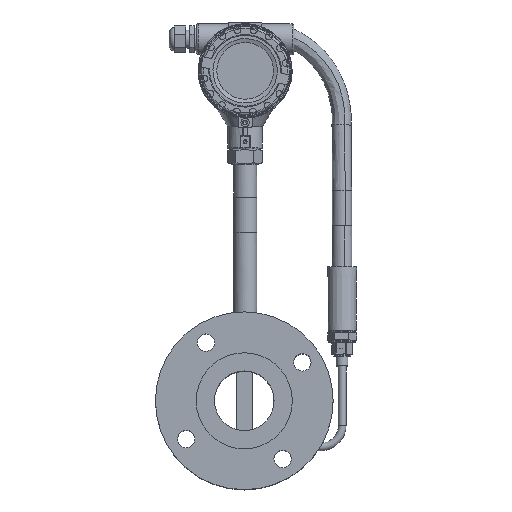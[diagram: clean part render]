
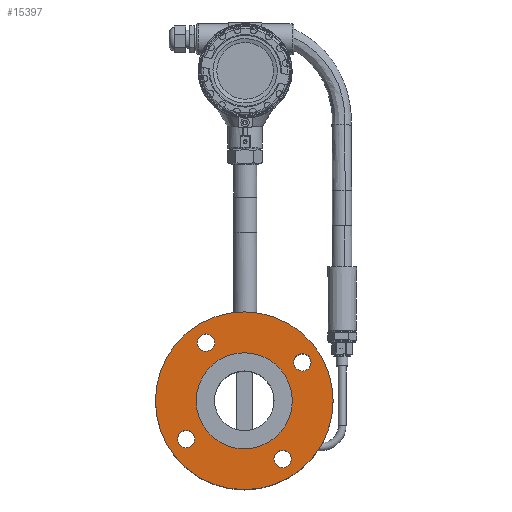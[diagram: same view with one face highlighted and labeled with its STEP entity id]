
A CAD part, top view. The second image highlights one B-rep face of the part: STEP entity #15397.
In plain terms, the highlighted planar face has unit normal (0, 0, 1).
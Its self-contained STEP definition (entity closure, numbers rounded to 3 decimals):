
#608=FACE_BOUND('',#5515,.T.);
#609=FACE_BOUND('',#5516,.T.);
#610=FACE_BOUND('',#5517,.T.);
#611=FACE_BOUND('',#5518,.T.);
#612=FACE_BOUND('',#5519,.T.);
#1120=PLANE('',#17150);
#4525=FACE_OUTER_BOUND('',#5514,.T.);
#5514=EDGE_LOOP('',(#13990));
#5515=EDGE_LOOP('',(#13991));
#5516=EDGE_LOOP('',(#13992));
#5517=EDGE_LOOP('',(#13993));
#5518=EDGE_LOOP('',(#13994));
#5519=EDGE_LOOP('',(#13995));
#6274=CIRCLE('',#17124,9.);
#6276=CIRCLE('',#17127,9.);
#6278=CIRCLE('',#17130,9.);
#6280=CIRCLE('',#17133,9.);
#6286=CIRCLE('',#17142,50.);
#6288=CIRCLE('',#17147,92.5);
#7614=VERTEX_POINT('',#30056);
#7616=VERTEX_POINT('',#30062);
#7618=VERTEX_POINT('',#30068);
#7620=VERTEX_POINT('',#30074);
#7626=VERTEX_POINT('',#30091);
#7628=VERTEX_POINT('',#30100);
#9756=EDGE_CURVE('',#7614,#7614,#6274,.T.);
#9759=EDGE_CURVE('',#7616,#7616,#6276,.T.);
#9762=EDGE_CURVE('',#7618,#7618,#6278,.T.);
#9765=EDGE_CURVE('',#7620,#7620,#6280,.T.);
#9774=EDGE_CURVE('',#7626,#7626,#6286,.T.);
#9777=EDGE_CURVE('',#7628,#7628,#6288,.T.);
#13990=ORIENTED_EDGE('',*,*,#9777,.T.);
#13991=ORIENTED_EDGE('',*,*,#9756,.T.);
#13992=ORIENTED_EDGE('',*,*,#9759,.T.);
#13993=ORIENTED_EDGE('',*,*,#9762,.T.);
#13994=ORIENTED_EDGE('',*,*,#9765,.T.);
#13995=ORIENTED_EDGE('',*,*,#9774,.T.);
#15397=ADVANCED_FACE('',(#4525,#608,#609,#610,#611,#612),#1120,.F.);
#17124=AXIS2_PLACEMENT_3D('',#30057,#21538,#21539);
#17127=AXIS2_PLACEMENT_3D('',#30063,#21545,#21546);
#17130=AXIS2_PLACEMENT_3D('',#30069,#21552,#21553);
#17133=AXIS2_PLACEMENT_3D('',#30075,#21559,#21560);
#17142=AXIS2_PLACEMENT_3D('',#30093,#21580,#21581);
#17147=AXIS2_PLACEMENT_3D('',#30101,#21591,#21592);
#17150=AXIS2_PLACEMENT_3D('',#30106,#21598,#21599);
#21538=DIRECTION('center_axis',(0.,0.,
-1.));
#21539=DIRECTION('ref_axis',(1.,0.,0.));
#21545=DIRECTION('center_axis',(0.,0.,
-1.));
#21546=DIRECTION('ref_axis',(1.,0.,0.));
#21552=DIRECTION('center_axis',(0.,0.,
-1.));
#21553=DIRECTION('ref_axis',(1.,0.,0.));
#21559=DIRECTION('center_axis',(0.,0.,
-1.));
#21560=DIRECTION('ref_axis',(1.,0.,0.));
#21580=DIRECTION('center_axis',(0.,0.,
-1.));
#21581=DIRECTION('ref_axis',(1.,0.,0.));
#21591=DIRECTION('center_axis',(0.,0.,
1.));
#21592=DIRECTION('ref_axis',(-1.,0.,0.));
#21598=DIRECTION('center_axis',(0.,0.,
-1.));
#21599=DIRECTION('ref_axis',(-1.,0.,0.));
#30056=CARTESIAN_POINT('',(-445.437,149.014,251.239));
#30057=CARTESIAN_POINT('Origin',(-436.437,149.014,251.239));
#30062=CARTESIAN_POINT('',(-345.002,128.395,251.238));
#30063=CARTESIAN_POINT('Origin',(-336.002,128.395,251.238));
#30068=CARTESIAN_POINT('',(-424.818,249.45,251.245));
#30069=CARTESIAN_POINT('Origin',(-415.818,249.45,251.245));
#30074=CARTESIAN_POINT('',(-324.382,228.83,251.244));
#30075=CARTESIAN_POINT('Origin',(-315.382,228.83,251.244));
#30091=CARTESIAN_POINT('',(-425.91,188.922,251.241));
#30093=CARTESIAN_POINT('Origin',(-375.91,188.922,251.241));
#30100=CARTESIAN_POINT('',(-283.41,188.922,251.241));
#30101=CARTESIAN_POINT('Origin',(-375.91,188.922,251.241));
#30106=CARTESIAN_POINT('Origin',(-375.91,188.922,251.241));
